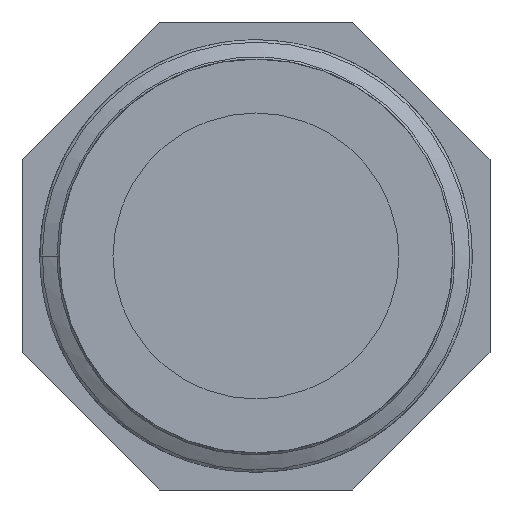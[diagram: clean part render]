
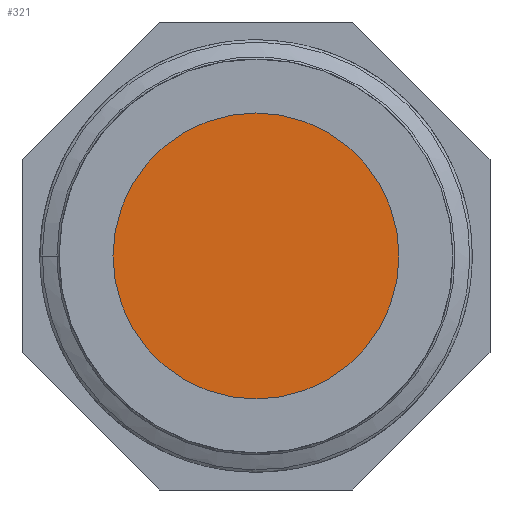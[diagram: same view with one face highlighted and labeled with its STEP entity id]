
A CAD part, front view. The second image highlights one B-rep face of the part: STEP entity #321.
In plain terms, the highlighted planar face has unit normal (0, -1, 0).
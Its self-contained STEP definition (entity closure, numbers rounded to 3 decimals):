
#22=PLANE('',#342);
#37=CIRCLE('',#343,11.);
#47=FACE_OUTER_BOUND('',#68,.T.);
#68=EDGE_LOOP('',(#263));
#166=VERTEX_POINT('',#4015);
#202=EDGE_CURVE('',#166,#166,#37,.T.);
#263=ORIENTED_EDGE('',*,*,#202,.F.);
#321=ADVANCED_FACE('',(#47),#22,.T.);
#342=AXIS2_PLACEMENT_3D('',#4014,#383,#384);
#343=AXIS2_PLACEMENT_3D('',#4016,#385,#386);
#383=DIRECTION('center_axis',(0.,-1.,0.));
#384=DIRECTION('ref_axis',(0.,0.,-1.));
#385=DIRECTION('center_axis',(0.,1.,0.));
#386=DIRECTION('ref_axis',(1.,0.,0.));
#4014=CARTESIAN_POINT('Origin',(0.,21.,0.));
#4015=CARTESIAN_POINT('',(-11.,21.,0.));
#4016=CARTESIAN_POINT('Origin',(0.,21.,0.));
